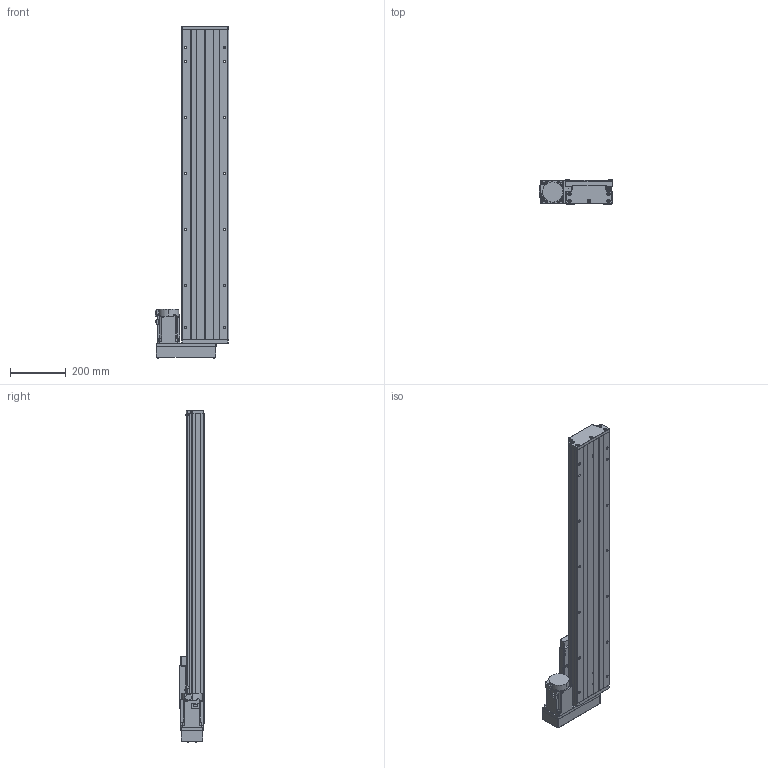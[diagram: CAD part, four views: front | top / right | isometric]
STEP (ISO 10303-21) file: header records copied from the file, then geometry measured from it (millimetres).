
FILE_DESCRIPTION (( 'STEP AP203' ), '1' );
FILE_NAME ('GTH17-850-BL-M75-C4.step', '2023-06-30T12:02:13', ( '微软用户' ), ( '微软中国' ), 'SwSTEP 2.0', 'SolidWorks 2020', '' );
FILE_SCHEMA (( 'CONFIG_CONTROL_DESIGN' ));
Length unit declared in the file: millimetre
Products named in the file (19): EE_SX911P_R; す晦芛蹟隊 M3℅5; GTH17-001_850; CTHA60-016; HG-KN73J-S100; GTH17-002_GTH17-002; GBT 70.1-M3℅5; GBT 70.2-M4¡Á45_M4¡Á35; GTH17-004; GBT77-2000 M3×3; GTH17-015-2_CTHA86-015-2; GTH17-005; GBT 70.1-M6¡Á20_M6¡Á20; GTH17-033; GB1155-6X6; GTH17-031; GTH17-850-BL-M75-C4; CTHA60-017; GBT 70.2-M3¡Á5_M3¡Á6
Assembly tree (58 placements, depth 2):
  GTH17-850-BL-M75-C4
    GTH17-001_850
    GTH17-002_GTH17-002
    GTH17-004
    GTH17-005
    GB1155-6X6  x2
    CTHA60-017  x3
    EE_SX911P_R  x3
    CTHA60-016  x2
    GBT 70.1-M3℅5  x6
    GBT77-2000 M3×3  x6
    GBT 70.1-M6¡Á20_M6¡Á20  x10
    GTH17-031
    GBT 70.2-M3¡Á5_M3¡Á6  x8
    す晦芛蹟隊 M3℅5  x6
    HG-KN73J-S100
    GBT 70.2-M4¡Á45_M4¡Á35  x4
    GTH17-015-2_CTHA86-015-2
    GTH17-033
Bounding box: 264.3 x 87 x 1188.2 mm (x, y, z)
Volume: 9810824 mm3; surface area: 1341700.9 mm2
Topology: 61 solids, 61 shells, 2459 faces, 5869 edges, 3635 vertices
Faces by surface type: plane 1312, cylinder 674, cone 297, torus 124, sphere 32, bspline 20
Entity records: 45046 total; most frequent: CARTESIAN_POINT 10416, DIRECTION 6541, ORIENTED_EDGE 6450, EDGE_CURVE 3225, AXIS2_PLACEMENT_3D 2238, VECTOR 2065, LINE 2065, VERTEX_POINT 2047
